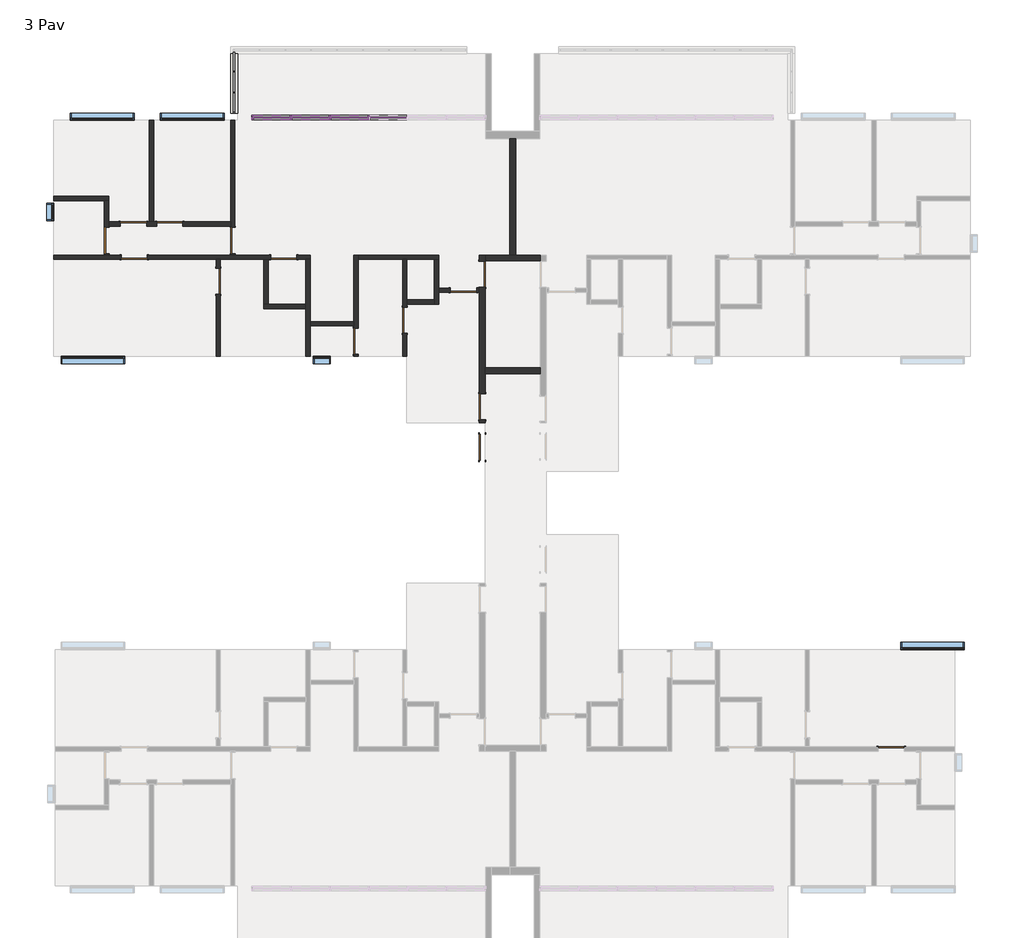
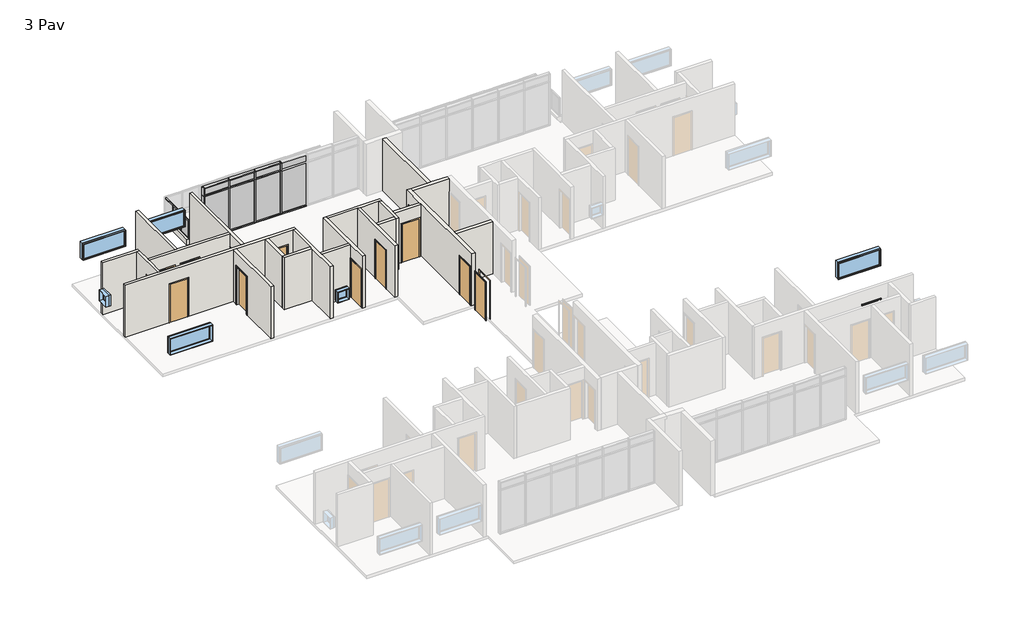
# One storey, part 4 of 6: 26 members, 22 walls, 14 doors, 10 plates, 6 windows.
"""IFC4 building model written with IfcOpenShell, lengths in millimetres."""

from ifc_helpers import new_model, si_unit, frame, origin, place, context, project, spatial, polyline, outline, extrude, faceted_brep, transform, mapped, element, save
from components import door_90_x_210_ee935524, door_90_x_210_565370b3, door_90_x_210_2c83007d, door_90_x_210_fbafd55c, montante_retangular_50_mm_quadrado_84e40a56, montante_retangular_50_mm_quadrado_3d152aff, montante_retangular_50_mm_quadrado_a01005a4, montante_retangular_50_mm_quadrado_ddd80bd7, montante_retangular_50_x_150_mm_6217edde, montante_retangular_50_x_150_mm_a22249d7, montante_retangular_50_x_150_mm_6225e4e3, montante_retangular_50_x_150_mm_0a8c3443, montante_retangular_50_x_150_mm_567eccab, montante_retangular_50_x_150_mm_1ca2bba2, montante_retangular_50_x_150_mm_6abf4531, montante_retangular_50_x_150_mm_662c37b1, painel_do_sistema_0196877a, painel_do_sistema_2aa81470, painel_do_sistema_1ecb5f42, painel_do_sistema_49db1829, painel_do_sistema_5ea5287b, painel_do_sistema_7730abee, window_0610_x_0610_mm_b5667cc9, window_220_x_90_84e01c73

model = new_model("IFC4")

# Units and contexts
model_context = context("Model", 3, world=origin())
ifc_project = project(units=[si_unit("LENGTHUNIT", "METRE", prefix="MILLI")], contexts=[model_context])

# Site, building, storey
site = spatial("IfcSite", under=ifc_project)
building = spatial("IfcBuilding", under=site)
storey = spatial("IfcBuildingStorey", under=building, Name="3 Pav", Elevation=9000.0)

# Doors
placement = place(None, origin())
door_90_x_210_shape = door_90_x_210_ee935524(model_context)
element("IfcDoor", 1, ObjectType="M_Descarga simples : 90 x 210", at=placement, inside=storey, context=model_context, shape_type="MappedRepresentation", body=[
    mapped(door_90_x_210_shape, transform((12043.7734258, -7711.3385375, 9000.0), x_axis=(1.0, 0.0, 0.0), y_axis=(0.0, 1.0, 0.0), z_axis=(0.0, 0.0, 1.0))),
])
element("IfcDoor", 2, ObjectType="M_Descarga simples : 90 x 210", at=placement, inside=storey, context=model_context, shape_type="MappedRepresentation", body=[
    mapped(door_90_x_210_shape, transform((-14116.2265742, 10408.6614625, 9000.0), x_axis=(1.0, 0.0, 0.0), y_axis=(0.0, 1.0, 0.0), z_axis=(0.0, 0.0, 1.0))),
])
element("IfcDoor", 3, ObjectType="M_Descarga simples : 90 x 210", at=placement, inside=storey, context=model_context, shape_type="MappedRepresentation", body=[
    mapped(door_90_x_210_shape, transform((-14096.2265742, 9258.6614625, 9000.0), x_axis=(-1.0, 0.0, 0.0), y_axis=(0.0, -1.0, 0.0), z_axis=(0.0, 0.0, 1.0))),
])
element("IfcDoor", 4, ObjectType="M_Descarga simples : 90 x 210", at=placement, inside=storey, context=model_context, shape_type="MappedRepresentation", body=[
    mapped(door_90_x_210_shape, transform((-8936.2265742, 9258.6614625, 9000.0), x_axis=(-1.0, 0.0, 0.0), y_axis=(0.0, -1.0, 0.0), z_axis=(0.0, 0.0, 1.0))),
])
door_90_x_210_2_shape = door_90_x_210_565370b3(model_context)
element("IfcDoor", 5, ObjectType="M_Descarga simples : 90 x 210", at=placement, inside=storey, context=model_context, shape_type="MappedRepresentation", body=[
    mapped(door_90_x_210_2_shape, transform((-2726.2265742, 8118.6614625, 9000.0), x_axis=(1.0, 0.0, 0.0), y_axis=(0.0, 1.0, 0.0), z_axis=(0.0, 0.0, 1.0))),
])
element("IfcDoor", 6, ObjectType="M_Descarga simples : 90 x 210", at=placement, inside=storey, context=model_context, shape_type="MappedRepresentation", body=[
    mapped(door_90_x_210_2_shape, transform((-4751.2265742, 7083.6614625, 9000.0), x_axis=(0.0, -1.0, 0.0), y_axis=(1.0, 0.0, 0.0), z_axis=(0.0, 0.0, 1.0))),
])
element("IfcDoor", 7, ObjectType="M_Descarga simples : 90 x 210", at=placement, inside=storey, context=model_context, shape_type="MappedRepresentation", body=[
    mapped(door_90_x_210_2_shape, transform((-6441.2265742, 6358.6614625, 9000.0), x_axis=(0.0, -1.0, 0.0), y_axis=(1.0, 0.0, 0.0), z_axis=(0.0, 0.0, 1.0))),
])
element("IfcDoor", 8, ObjectType="M_Descarga simples : 90 x 210", at=placement, inside=storey, context=model_context, shape_type="MappedRepresentation", body=[
    mapped(door_90_x_210_2_shape, transform((-11191.2265742, 8433.6614625, 9000.0), x_axis=(0.0, 1.0, 0.0), y_axis=(-1.0, 0.0, 0.0), z_axis=(0.0, 0.0, 1.0))),
])
element("IfcDoor", 9, ObjectType="M_Descarga simples : 90 x 210", at=placement, inside=storey, context=model_context, shape_type="MappedRepresentation", body=[
    mapped(door_90_x_210_2_shape, transform((-10691.2265742, 9833.6614625, 9000.0), x_axis=(0.0, -1.0, 0.0), y_axis=(1.0, 0.0, 0.0), z_axis=(0.0, 0.0, 1.0))),
])
element("IfcDoor", 10, ObjectType="M_Descarga simples : 90 x 210", at=placement, inside=storey, context=model_context, shape_type="MappedRepresentation", body=[
    mapped(door_90_x_210_2_shape, transform((-15041.2265742, 9833.6614625, 9000.0), x_axis=(0.0, -1.0, 0.0), y_axis=(1.0, 0.0, 0.0), z_axis=(0.0, 0.0, 1.0))),
])
element("IfcDoor", 11, ObjectType="M_Descarga simples : 90 x 210", at=placement, inside=storey, context=model_context, shape_type="MappedRepresentation", body=[
    mapped(door_90_x_210_2_shape, transform((-12866.2265742, 10408.6614625, 9000.0), x_axis=(-1.0, 0.0, 0.0), y_axis=(0.0, -1.0, 0.0), z_axis=(0.0, 0.0, 1.0))),
])
door_90_x_210_3_shape = door_90_x_210_2c83007d(model_context)
element("IfcDoor", 12, ObjectType="M_Descarga simples : 90 x 210", at=placement, inside=storey, context=model_context, shape_type="MappedRepresentation", body=[
    mapped(door_90_x_210_3_shape, transform((-2076.2265742, 2693.6614625, 9000.0), x_axis=(0.0, 1.0, 0.0), y_axis=(-1.0, 0.0, 0.0), z_axis=(0.0, 0.0, 1.0))),
])
door_90_x_210_4_shape = door_90_x_210_fbafd55c(model_context)
element("IfcDoor", 13, ObjectType="M_Descarga simples : 90 x 210", at=placement, inside=storey, context=model_context, shape_type="MappedRepresentation", body=[
    mapped(door_90_x_210_4_shape, transform((-2076.2265742, 4093.6614625, 9000.0), x_axis=(0.0, -1.0, 0.0), y_axis=(1.0, 0.0, 0.0), z_axis=(0.0, 0.0, 1.0))),
])
element("IfcDoor", 14, ObjectType="M_Descarga simples : 90 x 210", at=placement, inside=storey, context=model_context, shape_type="MappedRepresentation", body=[
    mapped(door_90_x_210_4_shape, transform((-2076.2265742, 8673.2521762, 9000.0), x_axis=(0.0, 1.0, 0.0), y_axis=(-1.0, 0.0, 0.0), z_axis=(0.0, 0.0, 1.0))),
])

# Members
montante_retangular_50_mm_quadrado_shape = montante_retangular_50_mm_quadrado_84e40a56(model_context)
element("IfcMember", 15, ObjectType="Montante retangular : 50 mm Quadrado", at=placement, inside=storey, context=model_context, shape_type="MappedRepresentation", body=[
    mapped(montante_retangular_50_mm_quadrado_shape, transform((-10641.2265742, 15663.6614625, 9150.0), x_axis=(0.0, -1.0, 0.0), y_axis=(-1.0, 0.0, 0.0), z_axis=(0.0, 0.0, -1.0))),
])
element("IfcMember", 16, ObjectType="Montante retangular : 50 mm Quadrado", at=placement, inside=storey, context=model_context, shape_type="MappedRepresentation", body=[
    mapped(montante_retangular_50_mm_quadrado_shape, transform((-10641.2265742, 14948.6614625, 9150.0), x_axis=(0.0, -1.0, 0.0), y_axis=(-1.0, 0.0, 0.0), z_axis=(0.0, 0.0, -1.0))),
])
montante_retangular_50_mm_quadrado_2_shape = montante_retangular_50_mm_quadrado_3d152aff(model_context)
element("IfcMember", 17, ObjectType="Montante retangular : 50 mm Quadrado", at=placement, inside=storey, context=model_context, shape_type="MappedRepresentation", body=[
    mapped(montante_retangular_50_mm_quadrado_2_shape, transform((-10641.2265742, 14233.6614625, 9150.0), x_axis=(0.0, -1.0, 0.0), y_axis=(-1.0, 0.0, 0.0), z_axis=(0.0, 0.0, -1.0))),
])
montante_retangular_50_mm_quadrado_3_shape = montante_retangular_50_mm_quadrado_a01005a4(model_context)
element("IfcMember", 18, ObjectType="Montante retangular : 50 mm Quadrado", at=placement, inside=storey, context=model_context, shape_type="MappedRepresentation", body=[
    mapped(montante_retangular_50_mm_quadrado_3_shape, transform((-10641.2265742, 14283.6614625, 10150.0), x_axis=(0.0, 0.0, 1.0), y_axis=(-1.0, 0.0, 0.0), z_axis=(0.0, -1.0, 0.0))),
])
element("IfcMember", 19, ObjectType="Montante retangular : 50 mm Quadrado", at=placement, inside=storey, context=model_context, shape_type="MappedRepresentation", body=[
    mapped(montante_retangular_50_mm_quadrado_3_shape, transform((-10641.2265742, 15688.6614625, 10150.0), x_axis=(0.0, 0.0, 1.0), y_axis=(-1.0, 0.0, 0.0), z_axis=(0.0, -1.0, 0.0))),
])
montante_retangular_50_mm_quadrado_4_shape = montante_retangular_50_mm_quadrado_ddd80bd7(model_context)
element("IfcMember", 20, ObjectType="Montante retangular : 50 mm Quadrado", at=placement, inside=storey, context=model_context, shape_type="MappedRepresentation", body=[
    mapped(montante_retangular_50_mm_quadrado_4_shape, transform((-10641.2265742, 14973.6614625, 10150.0), x_axis=(0.0, 0.0, 1.0), y_axis=(-1.0, 0.0, 0.0), z_axis=(0.0, -1.0, 0.0))),
])
element("IfcMember", 21, ObjectType="Montante retangular : 50 mm Quadrado", at=placement, inside=storey, context=model_context, shape_type="MappedRepresentation", body=[
    mapped(montante_retangular_50_mm_quadrado_3_shape, transform((-10641.2265742, 14923.6614625, 9150.0), x_axis=(0.0, 0.0, -1.0), y_axis=(-1.0, 0.0, 0.0), z_axis=(0.0, 1.0, 0.0))),
])
element("IfcMember", 22, ObjectType="Montante retangular : 50 mm Quadrado", at=placement, inside=storey, context=model_context, shape_type="MappedRepresentation", body=[
    mapped(montante_retangular_50_mm_quadrado_4_shape, transform((-10641.2265742, 15638.6614625, 9150.0), x_axis=(0.0, 0.0, -1.0), y_axis=(-1.0, 0.0, 0.0), z_axis=(0.0, 1.0, 0.0))),
])
montante_retangular_50_x_150_mm_shape = montante_retangular_50_x_150_mm_6217edde(model_context)
element("IfcMember", 23, ObjectType="Montante retangular : 50 x 150 mm", at=placement, inside=storey, context=model_context, shape_type="MappedRepresentation", body=[
    mapped(montante_retangular_50_x_150_mm_shape, transform((-8707.0599075, 14083.6614625, 11850.0), x_axis=(0.0, 0.0, 1.0), y_axis=(0.0, -1.0, 0.0), z_axis=(1.0, 0.0, 0.0))),
])
montante_retangular_50_x_150_mm_2_shape = montante_retangular_50_x_150_mm_a22249d7(model_context)
element("IfcMember", 24, ObjectType="Montante retangular : 50 x 150 mm", at=placement, inside=storey, context=model_context, shape_type="MappedRepresentation", body=[
    mapped(montante_retangular_50_x_150_mm_2_shape, transform((-7362.8932408, 14083.6614625, 11850.0), x_axis=(0.0, 0.0, 1.0), y_axis=(0.0, -1.0, 0.0), z_axis=(1.0, 0.0, 0.0))),
])
element("IfcMember", 25, ObjectType="Montante retangular : 50 x 150 mm", at=placement, inside=storey, context=model_context, shape_type="MappedRepresentation", body=[
    mapped(montante_retangular_50_x_150_mm_2_shape, transform((-6018.7265742, 14083.6614625, 11850.0), x_axis=(0.0, 0.0, 1.0), y_axis=(0.0, -1.0, 0.0), z_axis=(1.0, 0.0, 0.0))),
])
element("IfcMember", 26, ObjectType="Montante retangular : 50 x 150 mm", at=placement, inside=storey, context=model_context, shape_type="MappedRepresentation", body=[
    mapped(montante_retangular_50_x_150_mm_shape, transform((-9976.2265742, 14083.6614625, 9000.0), x_axis=(0.0, 0.0, -1.0), y_axis=(0.0, -1.0, 0.0), z_axis=(-1.0, 0.0, 0.0))),
])
element("IfcMember", 27, ObjectType="Montante retangular : 50 x 150 mm", at=placement, inside=storey, context=model_context, shape_type="MappedRepresentation", body=[
    mapped(montante_retangular_50_x_150_mm_2_shape, transform((-8657.0599075, 14083.6614625, 9000.0), x_axis=(0.0, 0.0, -1.0), y_axis=(0.0, -1.0, 0.0), z_axis=(-1.0, 0.0, 0.0))),
])
element("IfcMember", 28, ObjectType="Montante retangular : 50 x 150 mm", at=placement, inside=storey, context=model_context, shape_type="MappedRepresentation", body=[
    mapped(montante_retangular_50_x_150_mm_2_shape, transform((-7312.8932408, 14083.6614625, 9000.0), x_axis=(0.0, 0.0, -1.0), y_axis=(0.0, -1.0, 0.0), z_axis=(-1.0, 0.0, 0.0))),
])
element("IfcMember", 29, ObjectType="Montante retangular : 50 x 150 mm", at=placement, inside=storey, context=model_context, shape_type="MappedRepresentation", body=[
    mapped(montante_retangular_50_x_150_mm_2_shape, transform((-5968.7265742, 14083.6614625, 9000.0), x_axis=(0.0, 0.0, -1.0), y_axis=(0.0, -1.0, 0.0), z_axis=(-1.0, 0.0, 0.0))),
])
montante_retangular_50_x_150_mm_3_shape = montante_retangular_50_x_150_mm_6225e4e3(model_context)
element("IfcMember", 30, ObjectType="Montante retangular : 50 x 150 mm", at=placement, inside=storey, context=model_context, shape_type="MappedRepresentation", body=[
    mapped(montante_retangular_50_x_150_mm_3_shape, transform((-8682.0599075, 14083.6614625, 9000.0), x_axis=(1.0, 0.0, 0.0), y_axis=(0.0, -1.0, 0.0), z_axis=(0.0, 0.0, -1.0))),
])
element("IfcMember", 31, ObjectType="Montante retangular : 50 x 150 mm", at=placement, inside=storey, context=model_context, shape_type="MappedRepresentation", body=[
    mapped(montante_retangular_50_x_150_mm_3_shape, transform((-7337.8932408, 14083.6614625, 9000.0), x_axis=(1.0, 0.0, 0.0), y_axis=(0.0, -1.0, 0.0), z_axis=(0.0, 0.0, -1.0))),
])
element("IfcMember", 32, ObjectType="Montante retangular : 50 x 150 mm", at=placement, inside=storey, context=model_context, shape_type="MappedRepresentation", body=[
    mapped(montante_retangular_50_x_150_mm_3_shape, transform((-5993.7265742, 14083.6614625, 9000.0), x_axis=(1.0, 0.0, 0.0), y_axis=(0.0, -1.0, 0.0), z_axis=(0.0, 0.0, -1.0))),
])
montante_retangular_50_x_150_mm_4_shape = montante_retangular_50_x_150_mm_0a8c3443(model_context)
element("IfcMember", 33, ObjectType="Montante retangular : 50 x 150 mm", at=placement, inside=storey, context=model_context, shape_type="MappedRepresentation", body=[
    mapped(montante_retangular_50_x_150_mm_4_shape, transform((-10026.2265742, 14083.6614625, 11850.0), x_axis=(-1.0, 0.0, 0.0), y_axis=(0.0, -1.0, 0.0), z_axis=(0.0, 0.0, 1.0))),
])
montante_retangular_50_x_150_mm_5_shape = montante_retangular_50_x_150_mm_567eccab(model_context)
element("IfcMember", 34, ObjectType="Montante retangular : 50 x 150 mm", at=placement, inside=storey, context=model_context, shape_type="MappedRepresentation", body=[
    mapped(montante_retangular_50_x_150_mm_5_shape, transform((-8682.0599075, 14083.6614625, 11400.0), x_axis=(1.0, 0.0, 0.0), y_axis=(0.0, -1.0, 0.0), z_axis=(0.0, 0.0, -1.0))),
])
element("IfcMember", 35, ObjectType="Montante retangular : 50 x 150 mm", at=placement, inside=storey, context=model_context, shape_type="MappedRepresentation", body=[
    mapped(montante_retangular_50_x_150_mm_5_shape, transform((-7337.8932408, 14083.6614625, 11400.0), x_axis=(1.0, 0.0, 0.0), y_axis=(0.0, -1.0, 0.0), z_axis=(0.0, 0.0, -1.0))),
])
element("IfcMember", 36, ObjectType="Montante retangular : 50 x 150 mm", at=placement, inside=storey, context=model_context, shape_type="MappedRepresentation", body=[
    mapped(montante_retangular_50_x_150_mm_5_shape, transform((-5993.7265742, 14083.6614625, 11400.0), x_axis=(1.0, 0.0, 0.0), y_axis=(0.0, -1.0, 0.0), z_axis=(0.0, 0.0, -1.0))),
])
montante_retangular_50_x_150_mm_6_shape = montante_retangular_50_x_150_mm_1ca2bba2(model_context)
element("IfcMember", 37, ObjectType="Montante retangular : 50 x 150 mm", at=placement, inside=storey, context=model_context, shape_type="MappedRepresentation", body=[
    mapped(montante_retangular_50_x_150_mm_6_shape, transform((-8707.0599075, 14083.6614625, 11400.0), x_axis=(0.0, 0.0, 1.0), y_axis=(0.0, -1.0, 0.0), z_axis=(1.0, 0.0, 0.0))),
])
montante_retangular_50_x_150_mm_7_shape = montante_retangular_50_x_150_mm_6abf4531(model_context)
element("IfcMember", 38, ObjectType="Montante retangular : 50 x 150 mm", at=placement, inside=storey, context=model_context, shape_type="MappedRepresentation", body=[
    mapped(montante_retangular_50_x_150_mm_7_shape, transform((-7362.8932408, 14083.6614625, 11400.0), x_axis=(0.0, 0.0, 1.0), y_axis=(0.0, -1.0, 0.0), z_axis=(1.0, 0.0, 0.0))),
])
element("IfcMember", 39, ObjectType="Montante retangular : 50 x 150 mm", at=placement, inside=storey, context=model_context, shape_type="MappedRepresentation", body=[
    mapped(montante_retangular_50_x_150_mm_7_shape, transform((-6018.7265742, 14083.6614625, 11400.0), x_axis=(0.0, 0.0, 1.0), y_axis=(0.0, -1.0, 0.0), z_axis=(1.0, 0.0, 0.0))),
])
montante_retangular_50_x_150_mm_8_shape = montante_retangular_50_x_150_mm_662c37b1(model_context)
element("IfcMember", 40, ObjectType="Montante retangular : 50 x 150 mm", at=placement, inside=storey, context=model_context, shape_type="MappedRepresentation", body=[
    mapped(montante_retangular_50_x_150_mm_8_shape, transform((-10026.2265742, 14083.6614625, 11400.0), x_axis=(-1.0, 0.0, 0.0), y_axis=(0.0, -1.0, 0.0), z_axis=(0.0, 0.0, 1.0))),
])

# Plates
painel_do_sistema_shape = painel_do_sistema_0196877a(model_context)
element("IfcPlate", 41, ObjectType="Painel do sistema : Envidraçado", at=placement, inside=storey, context=model_context, shape_type="MappedRepresentation", body=[
    mapped(painel_do_sistema_shape, transform((-10641.2265742, 14603.6614625, 9200.0), x_axis=(0.0, -1.0, 0.0), y_axis=(1.0, 0.0, 0.0), z_axis=(0.0, 0.0, 1.0))),
])
painel_do_sistema_2_shape = painel_do_sistema_2aa81470(model_context)
element("IfcPlate", 42, ObjectType="Painel do sistema : Envidraçado", at=placement, inside=storey, context=model_context, shape_type="MappedRepresentation", body=[
    mapped(painel_do_sistema_2_shape, transform((-10641.2265742, 15306.1614625, 9200.0), x_axis=(0.0, -1.0, 0.0), y_axis=(1.0, 0.0, 0.0), z_axis=(0.0, 0.0, 1.0))),
])
painel_do_sistema_3_shape = painel_do_sistema_1ecb5f42(model_context)
element("IfcPlate", 43, ObjectType="Painel do sistema : Envidraçado", at=placement, inside=storey, context=model_context, shape_type="MappedRepresentation", body=[
    mapped(painel_do_sistema_3_shape, transform((-9341.6432408, 14083.6614625, 9050.0), x_axis=(1.0, 0.0, 0.0), y_axis=(0.0, 1.0, 0.0), z_axis=(0.0, 0.0, 1.0))),
])
painel_do_sistema_4_shape = painel_do_sistema_49db1829(model_context)
element("IfcPlate", 44, ObjectType="Painel do sistema : Envidraçado", at=placement, inside=storey, context=model_context, shape_type="MappedRepresentation", body=[
    mapped(painel_do_sistema_4_shape, transform((-8009.9765742, 14083.6614625, 9050.0), x_axis=(1.0, 0.0, 0.0), y_axis=(0.0, 1.0, 0.0), z_axis=(0.0, 0.0, 1.0))),
])
element("IfcPlate", 45, ObjectType="Painel do sistema : Envidraçado", at=placement, inside=storey, context=model_context, shape_type="MappedRepresentation", body=[
    mapped(painel_do_sistema_4_shape, transform((-6665.8099075, 14083.6614625, 9050.0), x_axis=(1.0, 0.0, 0.0), y_axis=(0.0, 1.0, 0.0), z_axis=(0.0, 0.0, 1.0))),
])
element("IfcPlate", 46, ObjectType="Painel do sistema : Envidraçado", at=placement, inside=storey, context=model_context, shape_type="MappedRepresentation", body=[
    mapped(painel_do_sistema_4_shape, transform((-5321.6432408, 14083.6614625, 9050.0), x_axis=(1.0, 0.0, 0.0), y_axis=(0.0, 1.0, 0.0), z_axis=(0.0, 0.0, 1.0))),
])
painel_do_sistema_5_shape = painel_do_sistema_5ea5287b(model_context)
element("IfcPlate", 47, ObjectType="Painel do sistema : Envidraçado", at=placement, inside=storey, context=model_context, shape_type="MappedRepresentation", body=[
    mapped(painel_do_sistema_5_shape, transform((-9341.6432408, 14083.6614625, 11425.0), x_axis=(1.0, 0.0, 0.0), y_axis=(0.0, 1.0, 0.0), z_axis=(0.0, 0.0, 1.0))),
])
painel_do_sistema_6_shape = painel_do_sistema_7730abee(model_context)
element("IfcPlate", 48, ObjectType="Painel do sistema : Envidraçado", at=placement, inside=storey, context=model_context, shape_type="MappedRepresentation", body=[
    mapped(painel_do_sistema_6_shape, transform((-8009.9765742, 14083.6614625, 11425.0), x_axis=(1.0, 0.0, 0.0), y_axis=(0.0, 1.0, 0.0), z_axis=(0.0, 0.0, 1.0))),
])
element("IfcPlate", 49, ObjectType="Painel do sistema : Envidraçado", at=placement, inside=storey, context=model_context, shape_type="MappedRepresentation", body=[
    mapped(painel_do_sistema_6_shape, transform((-6665.8099075, 14083.6614625, 11425.0), x_axis=(1.0, 0.0, 0.0), y_axis=(0.0, 1.0, 0.0), z_axis=(0.0, 0.0, 1.0))),
])
element("IfcPlate", 50, ObjectType="Painel do sistema : Envidraçado", at=placement, inside=storey, context=model_context, shape_type="MappedRepresentation", body=[
    mapped(painel_do_sistema_6_shape, transform((-5321.6432408, 14083.6614625, 11425.0), x_axis=(1.0, 0.0, 0.0), y_axis=(0.0, 1.0, 0.0), z_axis=(0.0, 0.0, 1.0))),
])

# Walls
element("IfcWall", 51, ObjectType="Exeterna 25", at=placement, inside=storey, context=model_context, shape_type="SweptSolid", body=[
    extrude(outline(polyline([(-10766.2265742, 14233.6614625), (-10766.2265742, 16278.6614625), (-10516.2265742, 16278.6614625), (-10516.2265742, 14233.6614625), (-10766.2265742, 14233.6614625)])), frame((0.0, 0.0, 8850.0), z_axis=(0.0, 0.0, 1.0), x_axis=(1.0, 0.0, 0.0)), (0.0, 0.0, 1.0), 300.0),
])
element("IfcWall", 52, ObjectType="Estrutura 20", at=placement, inside=storey, context=model_context, shape_type="SweptSolid", body=[
    extrude(outline(polyline([(-76.2265742, 5233.6614625), (-1976.2265742, 5233.6614625), (-1976.2265742, 5433.6614625), (-76.2265742, 5433.6614625), (-76.2265742, 5233.6614625)])), frame((0.0, 0.0, 9000.0), z_axis=(0.0, 0.0, 1.0), x_axis=(1.0, 0.0, 0.0)), (0.0, 0.0, 1.0), 2850.0),
])
element("IfcWall", 53, ObjectType="Interna 15", at=placement, inside=storey, context=model_context, shape_type="Brep", body=[
    faceted_brep([(-10766.2265742, 9383.6614625, 11100.0), (-10766.2265742, 9383.6614625, 9000.0), (-10766.2265742, 9333.6614625, 9000.0), (-10766.2265742, 9333.6614625, 11850.0), (-10766.2265742, 10333.6614625, 11850.0), (-10766.2265742, 10483.6614625, 11850.0), (-10766.2265742, 13983.6614625, 11850.0), (-10766.2265742, 13983.6614625, 9000.0), (-10766.2265742, 10483.6614625, 9000.0), (-10766.2265742, 10333.6614625, 9000.0), (-10766.2265742, 10283.6614625, 9000.0), (-10766.2265742, 10283.6614625, 11100.0), (-10616.2265742, 9333.6614625, 9000.0), (-10616.2265742, 9383.6614625, 9000.0), (-10616.2265742, 9383.6614625, 11100.0), (-10616.2265742, 10283.6614625, 11100.0), (-10616.2265742, 10283.6614625, 9000.0), (-10616.2265742, 13983.6614625, 9000.0), (-10616.2265742, 13983.6614625, 11850.0), (-10616.2265742, 9333.6614625, 11850.0)], [[[0, 1, 2, 3, 4, 5, 6, 7, 8, 9, 10, 11]], [[12, 13, 14, 15, 16, 17, 18, 19]], [[2, 1, 13, 12]], [[10, 9, 8, 7, 17, 16]], [[6, 5, 4, 3, 19, 18]], [[3, 2, 12, 19]], [[14, 13, 1, 0]], [[15, 14, 0, 11]], [[16, 15, 11, 10]], [[7, 6, 18, 17]]]),
])
element("IfcWall", 54, ObjectType="Interna 15", at=placement, inside=storey, context=model_context, shape_type="Brep", body=[
    faceted_brep([(-13316.2265742, 10483.6614625, 9000.0), (-13416.2265742, 10483.6614625, 9000.0), (-13566.2265742, 10483.6614625, 9000.0), (-13666.2265742, 10483.6614625, 9000.0), (-13666.2265742, 10483.6614625, 11100.0), (-14566.2265742, 10483.6614625, 11100.0), (-14566.2265742, 10483.6614625, 9000.0), (-14966.2265742, 10483.6614625, 9000.0), (-14966.2265742, 10483.6614625, 11850.0), (-13566.2265742, 10483.6614625, 11850.0), (-13416.2265742, 10483.6614625, 11850.0), (-10766.2265742, 10483.6614625, 11850.0), (-10766.2265742, 10483.6614625, 9000.0), (-12416.2265742, 10483.6614625, 9000.0), (-12416.2265742, 10483.6614625, 11100.0), (-13316.2265742, 10483.6614625, 11100.0), (-13666.2265742, 10333.6614625, 11100.0), (-13666.2265742, 10333.6614625, 9000.0), (-13316.2265742, 10333.6614625, 9000.0), (-13316.2265742, 10333.6614625, 11100.0), (-12416.2265742, 10333.6614625, 11100.0), (-12416.2265742, 10333.6614625, 9000.0), (-10766.2265742, 10333.6614625, 9000.0), (-10766.2265742, 10333.6614625, 11850.0), (-14966.2265742, 10333.6614625, 11850.0), (-14966.2265742, 10333.6614625, 9000.0), (-14566.2265742, 10333.6614625, 9000.0), (-14566.2265742, 10333.6614625, 11100.0)], [[[0, 1, 2, 3, 4, 5, 6, 7, 8, 9, 10, 11, 12, 13, 14, 15]], [[16, 17, 18, 19, 20, 21, 22, 23, 24, 25, 26, 27]], [[13, 12, 22, 21]], [[26, 25, 7, 6]], [[18, 17, 3, 2, 1, 0]], [[11, 10, 9, 8, 24, 23]], [[12, 11, 23, 22]], [[8, 7, 25, 24]], [[4, 3, 17, 16]], [[5, 4, 16, 27]], [[6, 5, 27, 26]], [[19, 18, 0, 15]], [[20, 19, 15, 14]], [[21, 20, 14, 13]]]),
])
element("IfcWall", 55, ObjectType="Interna 15", at=placement, inside=storey, context=model_context, shape_type="SweptSolid", body=[
    extrude(outline(polyline([(-13416.2265742, 13983.6614625), (-13416.2265742, 10483.6614625), (-13566.2265742, 10483.6614625), (-13566.2265742, 13983.6614625), (-13416.2265742, 13983.6614625)])), frame((0.0, 0.0, 9000.0), z_axis=(0.0, 0.0, 1.0), x_axis=(1.0, 0.0, 0.0)), (0.0, 0.0, 1.0), 2850.0),
])
element("IfcWall", 56, ObjectType="Interna 15", at=placement, inside=storey, context=model_context, shape_type="Brep", body=[
    faceted_brep([(-16866.2265742, 11213.6614625, 9000.0), (-15116.2265742, 11213.6614625, 9000.0), (-14966.2265742, 11213.6614625, 9000.0), (-14966.2265742, 11213.6614625, 11850.0), (-15116.2265742, 11213.6614625, 11850.0), (-16866.2265742, 11213.6614625, 11850.0), (-16866.2265742, 11363.6614625, 9000.0), (-16866.2265742, 11363.6614625, 11850.0), (-14966.2265742, 11363.6614625, 11850.0), (-14966.2265742, 11363.6614625, 9000.0)], [[[0, 1, 2, 3, 4, 5]], [[6, 7, 8, 9]], [[2, 1, 0, 6, 9]], [[5, 4, 3, 8, 7]], [[3, 2, 9, 8]], [[0, 5, 7, 6]]]),
])
element("IfcWall", 57, ObjectType="Interna 15", at=placement, inside=storey, context=model_context, shape_type="Brep", body=[
    faceted_brep([(-15116.2265742, 9383.6614625, 11100.0), (-15116.2265742, 9383.6614625, 9000.0), (-15116.2265742, 9333.6614625, 9000.0), (-15116.2265742, 9333.6614625, 11850.0), (-15116.2265742, 11213.6614625, 11850.0), (-15116.2265742, 11213.6614625, 9000.0), (-15116.2265742, 10283.6614625, 9000.0), (-15116.2265742, 10283.6614625, 11100.0), (-14966.2265742, 9333.6614625, 9000.0), (-14966.2265742, 9383.6614625, 9000.0), (-14966.2265742, 9383.6614625, 11100.0), (-14966.2265742, 10283.6614625, 11100.0), (-14966.2265742, 10283.6614625, 9000.0), (-14966.2265742, 10333.6614625, 9000.0), (-14966.2265742, 10483.6614625, 9000.0), (-14966.2265742, 11213.6614625, 9000.0), (-14966.2265742, 11213.6614625, 11850.0), (-14966.2265742, 10483.6614625, 11850.0), (-14966.2265742, 10333.6614625, 11850.0), (-14966.2265742, 9333.6614625, 11850.0)], [[[0, 1, 2, 3, 4, 5, 6, 7]], [[8, 9, 10, 11, 12, 13, 14, 15, 16, 17, 18, 19]], [[6, 5, 15, 14, 13, 12]], [[2, 1, 9, 8]], [[4, 3, 19, 18, 17, 16]], [[3, 2, 8, 19]], [[5, 4, 16, 15]], [[10, 9, 1, 0]], [[11, 10, 0, 7]], [[12, 11, 7, 6]]]),
])
element("IfcWall", 58, ObjectType="Interna 15", at=placement, inside=storey, context=model_context, shape_type="Brep", body=[
    faceted_brep([(-13646.2265742, 9183.6614625, 9000.0), (-11266.2265742, 9183.6614625, 9000.0), (-11116.2265742, 9183.6614625, 9000.0), (-9616.2265742, 9183.6614625, 9000.0), (-9466.2265742, 9183.6614625, 9000.0), (-9386.2265742, 9183.6614625, 9000.0), (-9386.2265742, 9183.6614625, 11100.0), (-8486.2265742, 9183.6614625, 11100.0), (-8486.2265742, 9183.6614625, 9000.0), (-8166.2265742, 9183.6614625, 9000.0), (-8016.2265742, 9183.6614625, 9000.0), (-8016.2265742, 9183.6614625, 11850.0), (-8166.2265742, 9183.6614625, 11850.0), (-9466.2265742, 9183.6614625, 11850.0), (-9616.2265742, 9183.6614625, 11850.0), (-11116.2265742, 9183.6614625, 11850.0), (-11266.2265742, 9183.6614625, 11850.0), (-16866.2265742, 9183.6614625, 11850.0), (-16866.2265742, 9183.6614625, 9000.0), (-14546.2265742, 9183.6614625, 9000.0), (-14546.2265742, 9183.6614625, 11100.0), (-13646.2265742, 9183.6614625, 11100.0), (-9386.2265742, 9333.6614625, 11100.0), (-9386.2265742, 9333.6614625, 9000.0), (-10616.2265742, 9333.6614625, 9000.0), (-10766.2265742, 9333.6614625, 9000.0), (-13646.2265742, 9333.6614625, 9000.0), (-13646.2265742, 9333.6614625, 11100.0), (-14546.2265742, 9333.6614625, 11100.0), (-14546.2265742, 9333.6614625, 9000.0), (-14966.2265742, 9333.6614625, 9000.0), (-15116.2265742, 9333.6614625, 9000.0), (-16866.2265742, 9333.6614625, 9000.0), (-16866.2265742, 9333.6614625, 11850.0), (-15116.2265742, 9333.6614625, 11850.0), (-14966.2265742, 9333.6614625, 11850.0), (-10766.2265742, 9333.6614625, 11850.0), (-10616.2265742, 9333.6614625, 11850.0), (-8016.2265742, 9333.6614625, 11850.0), (-8016.2265742, 9333.6614625, 9000.0), (-8486.2265742, 9333.6614625, 9000.0), (-8486.2265742, 9333.6614625, 11100.0)], [[[0, 1, 2, 3, 4, 5, 6, 7, 8, 9, 10, 11, 12, 13, 14, 15, 16, 17, 18, 19, 20, 21]], [[22, 23, 24, 25, 26, 27, 28, 29, 30, 31, 32, 33, 34, 35, 36, 37, 38, 39, 40, 41]], [[40, 39, 10, 9, 8]], [[26, 25, 24, 23, 5, 4, 3, 2, 1, 0]], [[32, 31, 30, 29, 19, 18]], [[17, 16, 15, 14, 13, 12, 11, 38, 37, 36, 35, 34, 33]], [[11, 10, 39, 38]], [[6, 5, 23, 22]], [[7, 6, 22, 41]], [[8, 7, 41, 40]], [[20, 19, 29, 28]], [[21, 20, 28, 27]], [[0, 21, 27, 26]], [[18, 17, 33, 32]]]),
])
element("IfcWall", 59, ObjectType="Interna 15", at=placement, inside=storey, context=model_context, shape_type="Brep", body=[
    faceted_brep([(-8166.2265742, 9183.6614625, 9000.0), (-8166.2265742, 7633.6614625, 9000.0), (-8166.2265742, 7483.6614625, 9000.0), (-8166.2265742, 5833.6614625, 9000.0), (-8166.2265742, 5833.6614625, 11850.0), (-8166.2265742, 7483.6614625, 11850.0), (-8166.2265742, 7633.6614625, 11850.0), (-8166.2265742, 9183.6614625, 11850.0), (-8016.2265742, 9183.6614625, 9000.0), (-8016.2265742, 9183.6614625, 11850.0), (-8016.2265742, 7033.6614625, 11850.0), (-8016.2265742, 6883.6614625, 11850.0), (-8016.2265742, 5833.6614625, 11850.0), (-8016.2265742, 5833.6614625, 9000.0), (-8016.2265742, 6883.6614625, 9000.0), (-8016.2265742, 7033.6614625, 9000.0)], [[[0, 1, 2, 3, 4, 5, 6, 7]], [[8, 9, 10, 11, 12, 13, 14, 15]], [[3, 2, 1, 0, 8, 15, 14, 13]], [[7, 6, 5, 4, 12, 11, 10, 9]], [[0, 7, 9, 8]], [[4, 3, 13, 12]]]),
])
element("IfcWall", 60, ObjectType="Interna 15", at=placement, inside=storey, context=model_context, shape_type="Brep", body=[
    faceted_brep([(-8166.2265742, 7633.6614625, 9000.0), (-9466.2265742, 7633.6614625, 9000.0), (-9616.2265742, 7633.6614625, 9000.0), (-9616.2265742, 7633.6614625, 11850.0), (-9466.2265742, 7633.6614625, 11850.0), (-8166.2265742, 7633.6614625, 11850.0), (-8166.2265742, 7483.6614625, 9000.0), (-8166.2265742, 7483.6614625, 11850.0), (-9616.2265742, 7483.6614625, 11850.0), (-9616.2265742, 7483.6614625, 9000.0)], [[[0, 1, 2, 3, 4, 5]], [[6, 7, 8, 9]], [[2, 1, 0, 6, 9]], [[5, 4, 3, 8, 7]], [[0, 5, 7, 6]], [[3, 2, 9, 8]]]),
])
element("IfcWall", 61, ObjectType="Interna 15", at=placement, inside=storey, context=model_context, shape_type="SweptSolid", body=[
    extrude(outline(polyline([(-9466.2265742, 9183.6614625), (-9466.2265742, 7633.6614625), (-9616.2265742, 7633.6614625), (-9616.2265742, 9183.6614625), (-9466.2265742, 9183.6614625)])), frame((0.0, 0.0, 9000.0), z_axis=(0.0, 0.0, 1.0), x_axis=(1.0, 0.0, 0.0)), (0.0, 0.0, 1.0), 2850.0),
])
element("IfcWall", 62, ObjectType="Interna 15", at=placement, inside=storey, context=model_context, shape_type="SweptSolid", body=[
    extrude(outline(polyline([(9183.6614625, 9000.0), (8883.6614625, 9000.0), (8883.6614625, 11100.0), (7983.6614625, 11100.0), (7983.6614625, 9000.0), (5833.6614625, 9000.0), (5833.6614625, 11850.0), (9183.6614625, 11850.0), (9183.6614625, 9000.0)])), frame((-11266.2265742, 0.0, 0.0), z_axis=(1.0, 0.0, 0.0), x_axis=(0.0, 1.0, 0.0)), (0.0, 0.0, 1.0), 150.0),
])
element("IfcWall", 63, ObjectType="Interna 15", at=placement, inside=storey, context=model_context, shape_type="SweptSolid", body=[
    extrude(outline(polyline([(-6516.2265742, 6883.6614625), (-8016.2265742, 6883.6614625), (-8016.2265742, 7033.6614625), (-6516.2265742, 7033.6614625), (-6516.2265742, 6883.6614625)])), frame((0.0, 0.0, 9000.0), z_axis=(0.0, 0.0, 1.0), x_axis=(1.0, 0.0, 0.0)), (0.0, 0.0, 1.0), 2850.0),
])
element("IfcWall", 64, ObjectType="Interna 15", at=placement, inside=storey, context=model_context, shape_type="Brep", body=[
    faceted_brep([(-6366.2265742, 5833.6614625, 9000.0), (-6366.2265742, 5908.6614625, 9000.0), (-6366.2265742, 5908.6614625, 11100.0), (-6366.2265742, 6808.6614625, 11100.0), (-6366.2265742, 6808.6614625, 9000.0), (-6366.2265742, 9183.6614625, 9000.0), (-6366.2265742, 9333.6614625, 9000.0), (-6366.2265742, 9333.6614625, 11850.0), (-6366.2265742, 9183.6614625, 11850.0), (-6366.2265742, 5833.6614625, 11850.0), (-6516.2265742, 5908.6614625, 11100.0), (-6516.2265742, 5908.6614625, 9000.0), (-6516.2265742, 5833.6614625, 9000.0), (-6516.2265742, 5833.6614625, 11850.0), (-6516.2265742, 6883.6614625, 11850.0), (-6516.2265742, 7033.6614625, 11850.0), (-6516.2265742, 9333.6614625, 11850.0), (-6516.2265742, 9333.6614625, 9000.0), (-6516.2265742, 7033.6614625, 9000.0), (-6516.2265742, 6883.6614625, 9000.0), (-6516.2265742, 6808.6614625, 9000.0), (-6516.2265742, 6808.6614625, 11100.0)], [[[0, 1, 2, 3, 4, 5, 6, 7, 8, 9]], [[10, 11, 12, 13, 14, 15, 16, 17, 18, 19, 20, 21]], [[12, 11, 1, 0]], [[20, 19, 18, 17, 6, 5, 4]], [[9, 8, 7, 16, 15, 14, 13]], [[7, 6, 17, 16]], [[2, 1, 11, 10]], [[3, 2, 10, 21]], [[4, 3, 21, 20]], [[0, 9, 13, 12]]]),
])
element("IfcWall", 65, ObjectType="Interna 15", at=placement, inside=storey, context=model_context, shape_type="Brep", body=[
    faceted_brep([(-6366.2265742, 9183.6614625, 9000.0), (-4826.2265742, 9183.6614625, 9000.0), (-4676.2265742, 9183.6614625, 9000.0), (-3726.2265742, 9183.6614625, 9000.0), (-3576.2265742, 9183.6614625, 9000.0), (-3576.2265742, 9183.6614625, 11850.0), (-3726.2265742, 9183.6614625, 11850.0), (-4676.2265742, 9183.6614625, 11850.0), (-4826.2265742, 9183.6614625, 11850.0), (-6366.2265742, 9183.6614625, 11850.0), (-6366.2265742, 9333.6614625, 9000.0), (-6366.2265742, 9333.6614625, 11850.0), (-3576.2265742, 9333.6614625, 11850.0), (-3576.2265742, 9333.6614625, 9000.0)], [[[0, 1, 2, 3, 4, 5, 6, 7, 8, 9]], [[10, 11, 12, 13]], [[4, 3, 2, 1, 0, 10, 13]], [[9, 8, 7, 6, 5, 12, 11]], [[0, 9, 11, 10]], [[5, 4, 13, 12]]]),
])
element("IfcWall", 66, ObjectType="Interna 15", at=placement, inside=storey, context=model_context, shape_type="Brep", body=[
    faceted_brep([(-4826.2265742, 6633.6614625, 11100.0), (-4826.2265742, 6633.6614625, 9000.0), (-4826.2265742, 5833.6614625, 9000.0), (-4826.2265742, 5833.6614625, 11850.0), (-4826.2265742, 9183.6614625, 11850.0), (-4826.2265742, 9183.6614625, 9000.0), (-4826.2265742, 7533.6614625, 9000.0), (-4826.2265742, 7533.6614625, 11100.0), (-4676.2265742, 5833.6614625, 9000.0), (-4676.2265742, 6633.6614625, 9000.0), (-4676.2265742, 6633.6614625, 11100.0), (-4676.2265742, 7533.6614625, 11100.0), (-4676.2265742, 7533.6614625, 9000.0), (-4676.2265742, 7633.6614625, 9000.0), (-4676.2265742, 7783.6614625, 9000.0), (-4676.2265742, 9183.6614625, 9000.0), (-4676.2265742, 9183.6614625, 11850.0), (-4676.2265742, 7783.6614625, 11850.0), (-4676.2265742, 7633.6614625, 11850.0), (-4676.2265742, 5833.6614625, 11850.0)], [[[0, 1, 2, 3, 4, 5, 6, 7]], [[8, 9, 10, 11, 12, 13, 14, 15, 16, 17, 18, 19]], [[6, 5, 15, 14, 13, 12]], [[2, 1, 9, 8]], [[4, 3, 19, 18, 17, 16]], [[5, 4, 16, 15]], [[10, 9, 1, 0]], [[11, 10, 0, 7]], [[12, 11, 7, 6]], [[3, 2, 8, 19]]]),
])
element("IfcWall", 67, ObjectType="Interna 15", at=placement, inside=storey, context=model_context, shape_type="Brep", body=[
    faceted_brep([(-3726.2265742, 9183.6614625, 9000.0), (-3726.2265742, 7783.6614625, 9000.0), (-3726.2265742, 7633.6614625, 9000.0), (-3726.2265742, 7633.6614625, 11850.0), (-3726.2265742, 7783.6614625, 11850.0), (-3726.2265742, 9183.6614625, 11850.0), (-3576.2265742, 9183.6614625, 9000.0), (-3576.2265742, 9183.6614625, 11850.0), (-3576.2265742, 8193.6614625, 11850.0), (-3576.2265742, 8043.6614625, 11850.0), (-3576.2265742, 7633.6614625, 11850.0), (-3576.2265742, 7633.6614625, 9000.0), (-3576.2265742, 8043.6614625, 9000.0), (-3576.2265742, 8193.6614625, 9000.0)], [[[0, 1, 2, 3, 4, 5]], [[6, 7, 8, 9, 10, 11, 12, 13]], [[2, 1, 0, 6, 13, 12, 11]], [[5, 4, 3, 10, 9, 8, 7]], [[3, 2, 11, 10]], [[0, 5, 7, 6]]]),
])
element("IfcWall", 68, ObjectType="Interna 15", at=placement, inside=storey, context=model_context, shape_type="SweptSolid", body=[
    extrude(outline(polyline([(-4676.2265742, 7783.6614625), (-3726.2265742, 7783.6614625), (-3726.2265742, 7633.6614625), (-4676.2265742, 7633.6614625), (-4676.2265742, 7783.6614625)])), frame((0.0, 0.0, 9000.0), z_axis=(0.0, 0.0, 1.0), x_axis=(1.0, 0.0, 0.0)), (0.0, 0.0, 1.0), 2850.0),
])
element("IfcWall", 69, ObjectType="Interna 15", at=placement, inside=storey, context=model_context, shape_type="SweptSolid", body=[
    extrude(outline(polyline([(11100.0, -2276.2265742), (9000.0, -2276.2265742), (9000.0, -2176.2265742), (11850.0, -2176.2265742), (11850.0, -3576.2265742), (9000.0, -3576.2265742), (9000.0, -3176.2265742), (11100.0, -3176.2265742), (11100.0, -2276.2265742)])), frame((0.0, 8043.6614625, 0.0), z_axis=(0.0, 1.0, 0.0), x_axis=(0.0, 0.0, 1.0)), (0.0, 0.0, 1.0), 150.0),
])
element("IfcWall", 70, ObjectType="Interna 20", at=placement, inside=storey, context=model_context, shape_type="SweptSolid", body=[
    extrude(outline(polyline([(-926.2265742, 13353.6614625), (-926.2265742, 9333.6614625), (-1126.2265742, 9333.6614625), (-1126.2265742, 13353.6614625), (-926.2265742, 13353.6614625)])), frame((0.0, 0.0, 9000.0), z_axis=(0.0, 0.0, 1.0), x_axis=(1.0, 0.0, 0.0)), (0.0, 0.0, 1.0), 2850.0),
])
element("IfcWall", 71, ObjectType="Interna 20", at=placement, inside=storey, context=model_context, shape_type="Brep", body=[
    faceted_brep([(-76.2265742, 9333.6614625, 9000.0), (-926.2265742, 9333.6614625, 9000.0), (-1126.2265742, 9333.6614625, 9000.0), (-1976.2265742, 9333.6614625, 9000.0), (-1976.2265742, 9333.6614625, 11850.0), (-1126.2265742, 9333.6614625, 11850.0), (-926.2265742, 9333.6614625, 11850.0), (-76.2265742, 9333.6614625, 11850.0), (-76.2265742, 9133.6614625, 9000.0), (-76.2265742, 9133.6614625, 11850.0), (-1976.2265742, 9133.6614625, 11850.0), (-1976.2265742, 9133.6614625, 9000.0)], [[[0, 1, 2, 3, 4, 5, 6, 7]], [[8, 9, 10, 11]], [[3, 2, 1, 0, 8, 11]], [[7, 6, 5, 4, 10, 9]], [[0, 7, 9, 8]], [[4, 3, 11, 10]]]),
])
element("IfcWall", 72, ObjectType="Interna 20", at=placement, inside=storey, context=model_context, shape_type="Brep", body=[
    faceted_brep([(-2176.2265742, 9333.6614625, 9000.0), (-2176.2265742, 9123.2521762, 9000.0), (-2176.2265742, 9123.2521762, 11100.0), (-2176.2265742, 8223.2521762, 11100.0), (-2176.2265742, 8223.2521762, 9000.0), (-2176.2265742, 8193.6614625, 9000.0), (-2176.2265742, 8043.6614625, 9000.0), (-2176.2265742, 4543.6614625, 9000.0), (-2176.2265742, 4543.6614625, 11100.0), (-2176.2265742, 3643.6614625, 11100.0), (-2176.2265742, 3643.6614625, 9000.0), (-2176.2265742, 3543.6614625, 9000.0), (-2176.2265742, 3543.6614625, 11850.0), (-2176.2265742, 8043.6614625, 11850.0), (-2176.2265742, 8193.6614625, 11850.0), (-2176.2265742, 9333.6614625, 11850.0), (-1976.2265742, 9123.2521762, 11100.0), (-1976.2265742, 9123.2521762, 9000.0), (-1976.2265742, 9133.6614625, 9000.0), (-1976.2265742, 9333.6614625, 9000.0), (-1976.2265742, 9333.6614625, 11850.0), (-1976.2265742, 9133.6614625, 11850.0), (-1976.2265742, 5433.6614625, 11850.0), (-1976.2265742, 5233.6614625, 11850.0), (-1976.2265742, 3543.6614625, 11850.0), (-1976.2265742, 3543.6614625, 9000.0), (-1976.2265742, 3643.6614625, 9000.0), (-1976.2265742, 3643.6614625, 11100.0), (-1976.2265742, 4543.6614625, 11100.0), (-1976.2265742, 4543.6614625, 9000.0), (-1976.2265742, 5233.6614625, 9000.0), (-1976.2265742, 5433.6614625, 9000.0), (-1976.2265742, 8223.2521762, 9000.0), (-1976.2265742, 8223.2521762, 11100.0)], [[[0, 1, 2, 3, 4, 5, 6, 7, 8, 9, 10, 11, 12, 13, 14, 15]], [[16, 17, 18, 19, 20, 21, 22, 23, 24, 25, 26, 27, 28, 29, 30, 31, 32, 33]], [[11, 10, 26, 25]], [[19, 18, 17, 1, 0]], [[32, 31, 30, 29, 7, 6, 5, 4]], [[15, 14, 13, 12, 24, 23, 22, 21, 20]], [[0, 15, 20, 19]], [[27, 26, 10, 9]], [[28, 27, 9, 8]], [[29, 28, 8, 7]], [[2, 1, 17, 16]], [[3, 2, 16, 33]], [[4, 3, 33, 32]], [[12, 11, 25, 24]]]),
])

# Windows
window_0610_x_0610_mm_shape = window_0610_x_0610_mm_b5667cc9(model_context)
element("IfcWindow", 73, ObjectType="M_Fixado : 0610 x 0610 mm", at=placement, inside=storey, context=model_context, shape_type="MappedRepresentation", body=[
    mapped(window_0610_x_0610_mm_shape, transform((-7616.2265742, 5695.6614625, 9000.0), x_axis=(-1.0, 0.0, 0.0), y_axis=(0.0, -1.0, 0.0), z_axis=(0.0, 0.0, 1.0))),
])
element("IfcWindow", 74, ObjectType="M_Fixado : 0610 x 0610 mm", at=placement, inside=storey, context=model_context, shape_type="MappedRepresentation", body=[
    mapped(window_0610_x_0610_mm_shape, transform((-17004.2265742, 10813.6614625, 9000.0), x_axis=(0.0, 1.0, 0.0), y_axis=(-1.0, 0.0, 0.0), z_axis=(0.0, 0.0, 1.0))),
])
window_220_x_90_shape = window_220_x_90_84e01c73(model_context)
element("IfcWindow", 75, ObjectType="M_Fixado : 220 x 90", at=placement, inside=storey, context=model_context, shape_type="MappedRepresentation", body=[
    mapped(window_220_x_90_shape, transform((13463.7734258, -4148.3385375, 9185.0), x_axis=(1.0, 0.0, 0.0), y_axis=(0.0, 1.0, 0.0), z_axis=(0.0, 0.0, 1.0))),
])
element("IfcWindow", 76, ObjectType="M_Fixado : 220 x 90", at=placement, inside=storey, context=model_context, shape_type="MappedRepresentation", body=[
    mapped(window_220_x_90_shape, transform((-12091.2265742, 14121.6614625, 9185.0), x_axis=(1.0, 0.0, 0.0), y_axis=(0.0, 1.0, 0.0), z_axis=(0.0, 0.0, 1.0))),
])
element("IfcWindow", 77, ObjectType="M_Fixado : 220 x 90", at=placement, inside=storey, context=model_context, shape_type="MappedRepresentation", body=[
    mapped(window_220_x_90_shape, transform((-15191.2265742, 14121.6614625, 9185.0), x_axis=(1.0, 0.0, 0.0), y_axis=(0.0, 1.0, 0.0), z_axis=(0.0, 0.0, 1.0))),
])
element("IfcWindow", 78, ObjectType="M_Fixado : 220 x 90", at=placement, inside=storey, context=model_context, shape_type="MappedRepresentation", body=[
    mapped(window_220_x_90_shape, transform((-15516.2265742, 5695.6614625, 9185.0), x_axis=(-1.0, 0.0, 0.0), y_axis=(0.0, -1.0, 0.0), z_axis=(0.0, 0.0, 1.0))),
])

save(model, "model.ifc")
